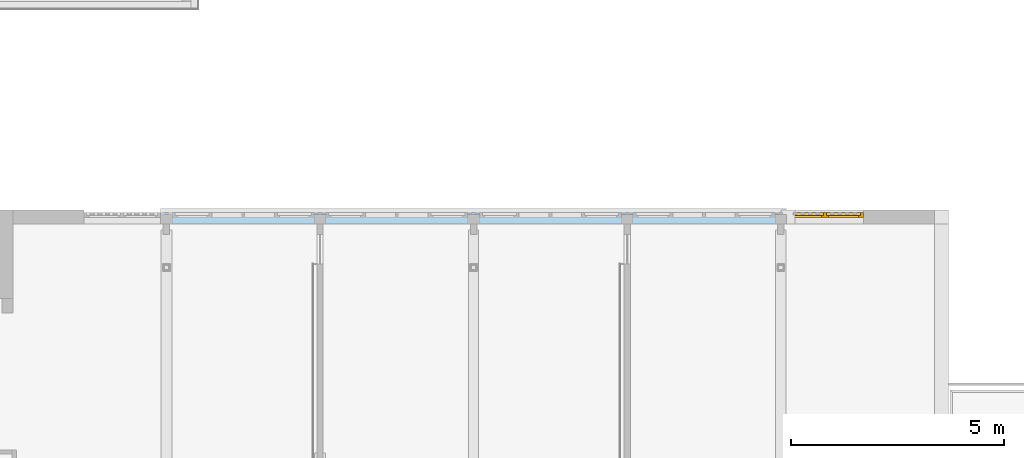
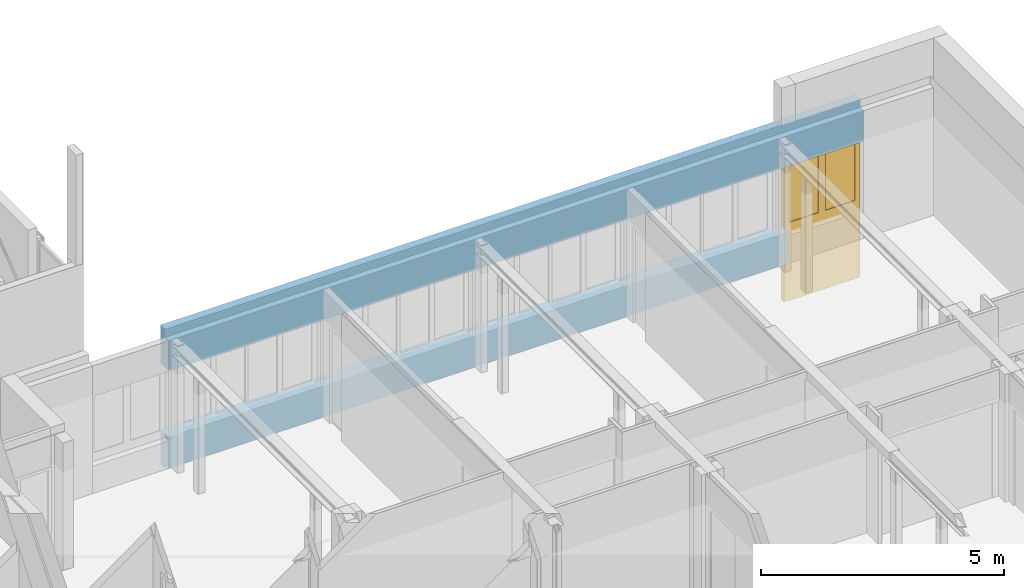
# One storey, part 44 of 117: 1 window, 6 openings, plus 1 element that does not belong to this part.
"""IFC2X3 building model written with IfcOpenShell, lengths in millimetres."""

import ifcopenshell
import ifcopenshell.guid

model = None  # the IFC model being written
_history = None  # IfcOwnerHistory: only IFC2X3 demands one
_inside = {}  # id of a spatial element -> (the spatial element, [elements in it])
_under = {}  # id of a project, library or spatial element -> (it, [spatial elements below it])
_declared = {}  # id of a project -> (the project, [libraries it declares])
_typed = {}  # id of a type object -> (the type object, [elements of that type])
_made_of = {}  # id of a material, layer set ... -> (it, [elements and type objects made of it])


def new_model(schema):
    """Start an empty IFC model of exactly this schema.

    Asked for "IFC4X3", IfcOpenShell would pick the latest addendum, in which some entities
    have other attributes; the version numbers below select the first issue.
    IFC2X3 requires an IfcOwnerHistory on every rooted entity: one is made here for all.
    """
    global model, _history
    if schema == "IFC4X3":
        model = ifcopenshell.file(schema_version=(4, 3, 0, 0))
    else:
        model = ifcopenshell.file(schema=schema)
    _inside.clear()
    _under.clear()
    _declared.clear()
    _typed.clear()
    _made_of.clear()
    _history = None
    if model.schema == "IFC2X3":
        org = make("IfcOrganization", Name="unknown")
        user = make(
            "IfcPersonAndOrganization",
            ThePerson=make("IfcPerson", FamilyName="unknown"),
            TheOrganization=org,
        )
        app = make(
            "IfcApplication",
            ApplicationDeveloper=org,
            Version="unknown",
            ApplicationFullName="unknown",
            ApplicationIdentifier="unknown",
        )
        _history = make(
            "IfcOwnerHistory",
            OwningUser=user,
            OwningApplication=app,
            ChangeAction="ADDED",
            CreationDate=0,
        )
    return model


def make(cls, **values):
    """One entity of the class cls with the attributes given. An attribute that is None is left unset."""
    return model.create_entity(
        cls, **{name: value for name, value in values.items() if value is not None}
    )


def entity(cls, *values):
    """Any entity or typed value of the class cls, its attributes in the order of the schema. None: left unset."""
    e = model.create_entity(cls)
    for i, value in enumerate(values):
        if value is not None:
            e[i] = value
    return e


def rooted(cls, **values):
    """An entity with a GlobalId (a new one), such as an element, a storey or a relation."""
    return make(cls, GlobalId=ifcopenshell.guid.new(), OwnerHistory=_history, **values)


def si_unit(unit_type, name, prefix=None):
    """IfcSIUnit, for example si_unit("LENGTHUNIT", "METRE", prefix="MILLI")."""
    return make("IfcSIUnit", UnitType=unit_type, Prefix=prefix, Name=name)


def converted_unit(unit_type, name, factor, base, dimensions=None, offset=None):
    """IfcConversionBasedUnit, such as the inch: factor (a typed value) times the base unit."""
    return make(
        "IfcConversionBasedUnit"
        if offset is None
        else "IfcConversionBasedUnitWithOffset",
        ConversionOffset=offset,
        Dimensions=None
        if dimensions is None
        else entity("IfcDimensionalExponents", *dimensions),
        UnitType=unit_type,
        Name=name,
        ConversionFactor=make(
            "IfcMeasureWithUnit", ValueComponent=factor, UnitComponent=base
        ),
    )


def derived_unit(unit_type, elements):
    """IfcDerivedUnit: a product of units, each with its exponent."""
    return make(
        "IfcDerivedUnit",
        Elements=[
            make("IfcDerivedUnitElement", Unit=unit, Exponent=power)
            for unit, power in elements
        ],
        UnitType=unit_type,
    )


def money_unit(currency):
    """IfcMonetaryUnit."""
    return make("IfcMonetaryUnit", Currency=currency)


def assignment(units):
    """IfcUnitAssignment: the units of a project."""
    return None if units is None else make("IfcUnitAssignment", Units=units)


def point(xyz):
    """IfcCartesianPoint."""
    return None if xyz is None else make("IfcCartesianPoint", Coordinates=xyz)


def direction(xyz):
    """IfcDirection."""
    return None if xyz is None else make("IfcDirection", DirectionRatios=xyz)


def frame(location, z_axis=None, x_axis=None):
    """IfcAxis2Placement3D, a coordinate frame: its origin and axes. An axis left out is left unset."""
    return make(
        "IfcAxis2Placement3D",
        Location=point(location),
        Axis=direction(z_axis),
        RefDirection=direction(x_axis),
    )


def origin_with_axes():
    """The frame at (0, 0, 0) with the z axis (0, 0, 1) and the x axis (1, 0, 0) written out."""
    return frame((0.0, 0.0, 0.0), z_axis=(0.0, 0.0, 1.0), x_axis=(1.0, 0.0, 0.0))


def place(relative_to, where):
    """IfcLocalPlacement: puts the frame where relative to a parent placement (None: the world)."""
    return make(
        "IfcLocalPlacement", PlacementRelTo=relative_to, RelativePlacement=where
    )


def context(
    kind, dimensions, precision=None, world=None, true_north=None, identifier=None
):
    """IfcGeometricRepresentationContext, for example the 3D "Model" context."""
    return make(
        "IfcGeometricRepresentationContext",
        ContextIdentifier=identifier,
        ContextType=kind,
        CoordinateSpaceDimension=dimensions,
        Precision=precision,
        WorldCoordinateSystem=world,
        TrueNorth=true_north,
    )


def subcontext(parent, identifier, kind, view, scale=None):
    """IfcGeometricRepresentationSubContext, for example "Body" below "Model"."""
    return make(
        "IfcGeometricRepresentationSubContext",
        ContextIdentifier=identifier,
        ContextType=kind,
        ParentContext=parent,
        TargetScale=scale,
        TargetView=view,
    )


def project(units=None, contexts=None):
    """IfcProject with its units and contexts."""
    return rooted(
        "IfcProject",
        Name="project",
        RepresentationContexts=contexts,
        UnitsInContext=assignment(units),
    )


def spatial(cls, under=None, at=None, **own):
    """A site, building, storey or space (cls), placed at a placement, below another one or the project."""
    s = rooted(cls, ObjectPlacement=at, **own)
    if under is not None:
        _under.setdefault(under.id(), (under, []))[1].append(s)
    return s


def faces_of(points, faces, orient=None, outer=None):
    """IfcFace entities. A face is a list of loops; a loop is a list of indices into points, from 0.

    orient and outer hold one flag for each loop. By default every Orientation is true, the
    first loop of a face is its IfcFaceOuterBound and the others are IfcFaceBound.
    """
    made = []
    for i, loops in enumerate(faces):
        bounds = []
        for j, loop in enumerate(loops):
            is_outer = j == 0 if outer is None else outer[i][j]
            bounds.append(
                make(
                    "IfcFaceOuterBound" if is_outer else "IfcFaceBound",
                    Bound=make("IfcPolyLoop", Polygon=[points[k] for k in loop]),
                    Orientation=True if orient is None else orient[i][j],
                )
            )
        made.append(make("IfcFace", Bounds=bounds))
    return made


def open_shell(faces, orient=None, outer=None):
    """The faces of one IfcOpenShell. surface_model builds it on its shared points."""
    return ("IfcOpenShell", faces, orient, outer)


def faceted_brep(points, faces, orient=None, outer=None, voids=None):
    """IfcFacetedBrep: a solid bounded by flat faces; with voids (closed shells), ...WithVoids."""
    shared = [point(p) for p in points]
    hull = make("IfcClosedShell", CfsFaces=faces_of(shared, faces, orient, outer))
    if voids is None:
        return make("IfcFacetedBrep", Outer=hull)
    return make(
        "IfcFacetedBrepWithVoids",
        Outer=hull,
        Voids=[
            make(cls, CfsFaces=faces_of(shared, fs, o, b)) for cls, fs, o, b in voids
        ],
    )


def surface_model(cls, points, shells):
    """IfcFaceBasedSurfaceModel or IfcShellBasedSurfaceModel (cls): surfaces that need not close."""
    shared = [point(p) for p in points]
    made = [make(c, CfsFaces=faces_of(shared, fs, o, b)) for c, fs, o, b in shells]
    if cls == "IfcFaceBasedSurfaceModel":
        return make(cls, FbsmFaces=made)
    return make(cls, SbsmBoundary=made)


def shape(context_of_items, identifier, shape_type, items):
    """IfcShapeRepresentation: the items that make up one representation, for example the "Body"."""
    return make(
        "IfcShapeRepresentation",
        ContextOfItems=context_of_items,
        RepresentationIdentifier=identifier,
        RepresentationType=shape_type,
        Items=items,
    )


def material(Name=None, Category=None):
    """IfcMaterial."""
    return make("IfcMaterial", Name=Name, Category=Category)


def made_of(thing, what):
    """Note that an element or type object is made of a material, layer set ...; save() writes the relation."""
    if what is not None:
        _made_of.setdefault(what.id(), (what, []))[1].append(thing)
    return thing


def type_object(cls, material=None, **own):
    """A type object (cls), such as IfcWallType, which elements share."""
    return made_of(rooted(cls, **own), material)


def element(
    cls,
    number,
    at=None,
    inside=None,
    cuts=None,
    type_object=None,
    material=None,
    context=None,
    identifier="Body",
    shape_type=None,
    held_by="IfcProductDefinitionShape",
    body=None,
    shapes=None,
    **own,
):
    """One element of the class cls, such as IfcWall. Its Tag is "e" and its number.

    at: its placement. inside: the storey or other place that contains it. cuts: it is an
    opening in that element (IfcRelVoidsElement). A single representation is given by context,
    identifier, shape_type and body (its items); several are given by shapes. held_by: the class
    of the entity that holds the representations. save() writes the other relations.
    """
    e = rooted(cls, Tag="e%d" % number, ObjectPlacement=at, **own)
    if body is not None:
        shapes = [shape(context, identifier, shape_type, body)]
    if shapes is not None:
        e.Representation = make(held_by, Representations=shapes)
    if inside is not None:
        _inside.setdefault(inside.id(), (inside, []))[1].append(e)
    if cuts is not None:
        rooted(
            "IfcRelVoidsElement", RelatingBuildingElement=cuts, RelatedOpeningElement=e
        )
    if type_object is not None:
        _typed.setdefault(type_object.id(), (type_object, []))[1].append(e)
    return made_of(e, material)


def fill(opening, filler):
    """IfcRelFillsElement: the door or window that sits in an opening."""
    return rooted(
        "IfcRelFillsElement",
        RelatingOpeningElement=opening,
        RelatedBuildingElement=filler,
    )


def aggregate(whole, parts):
    """IfcRelAggregates: a whole, such as a stair, and the parts it consists of."""
    return rooted("IfcRelAggregates", RelatingObject=whole, RelatedObjects=parts)


def save(model, path):
    """Write the relations noted so far, then the file.

    IfcRelAggregates (storeys below a building ...), IfcRelContainedInSpatialStructure (elements
    in a storey), IfcRelDefinesByType, IfcRelAssociatesMaterial and IfcRelDeclares: one each for
    every whole, place, type object, material and project.
    """
    for whole, parts in _under.values():
        aggregate(whole, parts)
    for where, things in _inside.values():
        rooted(
            "IfcRelContainedInSpatialStructure",
            RelatedElements=things,
            RelatingStructure=where,
        )
    for kind, things in _typed.values():
        rooted("IfcRelDefinesByType", RelatedObjects=things, RelatingType=kind)
    for what, things in _made_of.values():
        rooted("IfcRelAssociatesMaterial", RelatedObjects=things, RelatingMaterial=what)
    for by, libraries in _declared.values():
        rooted("IfcRelDeclares", RelatingContext=by, RelatedDefinitions=libraries)
    model.write(path)


model = new_model("IFC2X3")

# Units and contexts
model_context = context("Model", 3, precision=0.01, world=origin_with_axes(), true_north=direction((0.0, 1.0)))
body_context = subcontext(model_context, "Body", "Model", "MODEL_VIEW")
ifc_project = project(units=[si_unit("LENGTHUNIT", "METRE", prefix="MILLI"), si_unit("AREAUNIT", "SQUARE_METRE"), si_unit("VOLUMEUNIT", "CUBIC_METRE"), converted_unit("PLANEANGLEUNIT", "DEGREE", entity("IfcPlaneAngleMeasure", 0.0174532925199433), si_unit("PLANEANGLEUNIT", "RADIAN"), dimensions=[0, 0, 0, 0, 0, 0, 0]), money_unit("EUR"), converted_unit("TIMEUNIT", "Year", entity("IfcTimeMeasure", 31557600.0), si_unit("TIMEUNIT", "SECOND"), dimensions=[0, 0, 1, 0, 0, 0, 0]), si_unit("MASSUNIT", "GRAM", prefix="KILO"), si_unit("THERMODYNAMICTEMPERATUREUNIT", "DEGREE_CELSIUS"), si_unit("LUMINOUSINTENSITYUNIT", "LUMEN"), si_unit("ENERGYUNIT", "JOULE", prefix="MEGA"), derived_unit("THERMALCONDUCTANCEUNIT", [(si_unit("POWERUNIT", "WATT"), 1), (si_unit("LENGTHUNIT", "METRE"), -1), (si_unit("THERMODYNAMICTEMPERATUREUNIT", "KELVIN"), -1)]), derived_unit("SPECIFICHEATCAPACITYUNIT", [(si_unit("ENERGYUNIT", "JOULE"), 1), (si_unit("MASSUNIT", "GRAM", prefix="KILO"), -1), (si_unit("THERMODYNAMICTEMPERATUREUNIT", "KELVIN"), -1)]), derived_unit("MASSDENSITYUNIT", [(si_unit("MASSUNIT", "GRAM", prefix="KILO"), 1), (si_unit("VOLUMEUNIT", "CUBIC_METRE"), -1)])], contexts=[model_context])

# Site, building, storey
site_placement = place(None, origin_with_axes())
site = spatial("IfcSite", under=ifc_project, at=site_placement, Name="Site", CompositionType="ELEMENT")
building_placement = place(site_placement, origin_with_axes())
building = spatial("IfcBuilding", under=site, at=building_placement, Name="Naam gebouw", CompositionType="ELEMENT")
storey_placement = place(building_placement, frame((0.0, 0.0, 4150.0), z_axis=(0.0, 0.0, 1.0), x_axis=(1.0, 0.0, 0.0)))
storey = spatial("IfcBuildingStorey", under=building, at=storey_placement, Name="1e verdieping N", CompositionType="ELEMENT", Elevation=4150.0)

# Wall, openings, window
ifc_material = material(Name="ALG - CONSTRUCTIEF")
wall_type = type_object("IfcWallType", Name="ALG - CONSTRUCTIEF 330", PredefinedType="NOTDEFINED")
wall_placement = place(storey_placement, frame((52337.49999999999, 27505.91242510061, -99.99999999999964), z_axis=(0.0, 0.0, 1.0), x_axis=(-1.0, 0.0, 0.0)))
wall = element("IfcWall", 1, at=wall_placement, inside=storey, type_object=wall_type, material=ifc_material, Name="_Wand-x", context=body_context, shape_type="Brep", body=[
    faceted_brep([(1799.999999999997, -216.0000000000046, 883.0000000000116), (1799.999999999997, -259.999999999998, 883.0000000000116), (2075.00000000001, -259.999999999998, 883.0000000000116), (2075.00000000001, -216.0000000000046, 883.0000000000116), (1799.999999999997, 0.0, 883.0000000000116), (1799.999999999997, 0.0, 786.5000000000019), (1799.999999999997, -146.0000000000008, 786.5000000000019), (1799.999999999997, -145.9999999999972, 99.99999999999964), (1799.999999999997, -145.9999999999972, 0.0), (1799.999999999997, -259.999999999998, 0.0), (1799.999999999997, -329.9999999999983, 0.0), (1799.999999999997, -329.9999999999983, 883.0000000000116), (16475.0, -329.9999999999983, 883.0000000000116), (16475.0, -259.999999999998, 883.0000000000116), (16200.0, -259.999999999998, 883.0000000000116), (16200.0, -216.0000000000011, 883.0000000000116), (16474.99999999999, -216.0000000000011, 883.0000000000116), (16474.99999999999, 0.0, 883.0000000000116), (5675.000000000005, -259.999999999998, 883.0000000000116), (5399.999999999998, -259.999999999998, 883.0000000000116), (5399.999999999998, -216.0000000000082, 883.0000000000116), (5675.000000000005, -216.0000000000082, 882.9999999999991), (9275.000000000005, -259.9999999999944, 883.0000000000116), (9000.0, -259.9999999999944, 883.0000000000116), (9000.0, -216.0000000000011, 882.9999999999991), (9275.000000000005, -216.0000000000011, 882.9999999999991), (12875.00000000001, -259.999999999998, 883.0000000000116), (12599.99999999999, -259.999999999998, 883.0000000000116), (12599.99999999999, -216.0000000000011, 883.0000000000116), (12875.00000000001, -216.0000000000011, 883.0000000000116), (16475.0, 0.0, 786.5000000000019), (16475.0, 0.0, 99.99999999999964), (1799.999999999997, 0.0, 99.99999999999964), (16475.0, -145.9999999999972, 99.99999999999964), (16475.0, -145.9999999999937, 0.0), (16475.0, -329.9999999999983, 0.0), (16475.0, -145.9999999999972, 786.5000000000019)], [[[0, 1, 2, 3]], [[1, 0, 4, 5, 6, 7, 8, 9, 10, 11]], [[4, 0, 3, 2, 1, 11, 12, 13, 14, 15, 16, 17], [18, 19, 20, 21], [22, 23, 24, 25], [26, 27, 28, 29]], [[5, 4, 17, 30, 31, 32]], [[6, 5, 32, 7]], [[8, 7, 33, 34]], [[9, 8, 34, 35, 10]], [[10, 35, 12, 11]], [[16, 13, 12, 35, 34, 33, 36, 30, 17]], [[14, 13, 16, 15]], [[19, 18, 21, 20]], [[23, 22, 25, 24]], [[27, 26, 29, 28]], [[36, 33, 31, 30]], [[7, 32, 31, 33]]]),
    faceted_brep([(0.0, 0.0, 2539.999999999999), (0.0, -259.999999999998, 2539.999999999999), (0.0, -329.9999999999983, 2539.999999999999), (0.0, -329.9999999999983, 3500.0), (0.0, -145.5905537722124, 3500.0), (0.0, -145.5905537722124, 3300.0), (0.0, 0.0, 3300.0), (1799.999999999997, 0.0, 2539.999999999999), (16474.99999999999, 0.0, 2539.999999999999), (16475.0, -145.9999999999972, 2539.999999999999), (16474.99999999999, -216.0000000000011, 2539.999999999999), (16200.0, -216.0000000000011, 2539.999999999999), (16200.0, -259.999999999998, 2539.999999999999), (16475.0, -259.999999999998, 2539.999999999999), (16475.0, -329.9999999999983, 2539.999999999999), (5399.999999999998, -216.0000000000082, 2539.999999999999), (5399.999999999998, -259.999999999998, 2539.999999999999), (5675.000000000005, -259.999999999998, 2539.999999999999), (5675.000000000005, -216.0000000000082, 2539.999999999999), (9000.0, -259.9999999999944, 2539.999999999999), (9275.000000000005, -259.9999999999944, 2539.999999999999), (9275.000000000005, -216.0000000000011, 2539.999999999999), (9000.0, -216.0000000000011, 2539.999999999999), (12599.99999999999, -259.999999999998, 2539.999999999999), (12875.00000000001, -259.999999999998, 2539.999999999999), (12875.00000000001, -216.0000000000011, 2539.999999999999), (12599.99999999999, -216.0000000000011, 2539.999999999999), (1799.999999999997, -216.0000000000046, 2539.999999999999), (1799.999999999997, -259.999999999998, 2539.999999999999), (2075.00000000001, -259.999999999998, 2539.999999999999), (2075.00000000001, -216.0000000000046, 2539.999999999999), (16475.0, -329.9999999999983, 3500.0), (16475.0, -146.0000000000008, 3500.0), (16475.0, -146.0000000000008, 3300.0), (16475.0, 0.0, 3300.0)], [[[0, 1, 2, 3, 4, 5, 6]], [[7, 8, 9, 10, 11, 12, 13, 14, 2, 1, 0], [15, 16, 17, 18], [19, 20, 21, 22], [23, 24, 25, 26], [27, 28, 29, 30]], [[14, 31, 3, 2]], [[4, 3, 31, 32]], [[5, 4, 32, 33]], [[6, 5, 33, 34]], [[7, 0, 6, 34, 8]], [[33, 9, 8, 34]], [[33, 32, 31, 14, 13, 10, 9]], [[13, 12, 11, 10]], [[16, 15, 18, 17]], [[20, 19, 22, 21]], [[24, 23, 26, 25]], [[28, 27, 30, 29]]]),
])
opening_1_placement = place(wall_placement, frame((3737.499999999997, 0.0, 883.0000000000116), z_axis=(0.0, 0.0, 1.0), x_axis=(1.0, 0.0, 0.0)))
element("IfcOpeningElement", 2, at=opening_1_placement, cuts=wall, Name="_Merk-038", context=body_context, shape_type="Brep", body=[
    faceted_brep([(1662.500000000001, -259.999999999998, 0.0), (1662.500000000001, -259.999999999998, 1656.999999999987), (1662.500000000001, -331.0000000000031, 1656.999999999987), (1662.500000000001, -331.0000000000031, 0.0), (1662.500000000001, 1.000000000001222, 0.0), (1662.500000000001, 1.000000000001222, 1656.999999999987), (-1937.5, -259.999999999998, 1656.999999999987), (-1937.5, -331.0000000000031, 1656.999999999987), (-1937.5, 1.000000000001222, 1656.999999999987), (-1937.5, -331.0000000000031, 0.0), (-1937.5, -259.999999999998, 0.0), (-1937.5, 1.000000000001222, 0.0)], [[[0, 1, 2, 3]], [[1, 0, 4, 5]], [[6, 7, 2, 1, 5, 8]], [[7, 9, 3, 2]], [[0, 3, 9, 10, 11, 4]], [[5, 4, 11, 8]], [[6, 10, 9, 7]], [[10, 6, 8, 11]]]),
])
opening_2_placement = place(wall_placement, frame((10937.5, 0.0, 883.0000000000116), z_axis=(0.0, 0.0, 1.0), x_axis=(1.0, 0.0, 0.0)))
element("IfcOpeningElement", 3, at=opening_2_placement, cuts=wall, Name="_Merk-038", context=body_context, shape_type="Brep", body=[
    faceted_brep([(1662.500000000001, -259.9999999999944, 0.0), (1662.500000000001, -259.9999999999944, 1656.999999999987), (1662.500000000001, -330.9999999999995, 1656.999999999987), (1662.500000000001, -330.9999999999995, 0.0), (1662.500000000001, 1.000000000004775, 0.0), (1662.500000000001, 1.000000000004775, 1656.999999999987), (-1937.5, -259.9999999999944, 1656.999999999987), (-1937.5, -330.9999999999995, 1656.999999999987), (-1937.5, 1.000000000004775, 1656.999999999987), (-1937.5, -330.9999999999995, 0.0), (-1937.5, -259.9999999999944, 0.0), (-1937.5, 1.000000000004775, 0.0)], [[[0, 1, 2, 3]], [[1, 0, 4, 5]], [[6, 7, 2, 1, 5, 8]], [[7, 9, 3, 2]], [[0, 3, 9, 10, 11, 4]], [[5, 4, 11, 8]], [[6, 10, 9, 7]], [[10, 6, 8, 11]]]),
])
opening_3_placement = place(wall_placement, frame((14537.49999999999, 0.0, 883.0000000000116), z_axis=(0.0, 0.0, 1.0), x_axis=(1.0, 0.0, 0.0)))
element("IfcOpeningElement", 4, at=opening_3_placement, cuts=wall, Name="_Merk-038", context=body_context, shape_type="Brep", body=[
    faceted_brep([(1937.5, -259.999999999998, 0.0), (1937.5, -259.999999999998, 1656.999999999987), (1937.5, -330.9999999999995, 1656.999999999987), (1937.5, -330.9999999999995, 0.0), (1937.5, 1.000000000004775, 0.0), (1937.5, 1.000000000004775, 1656.999999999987), (-1937.5, -259.999999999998, 1656.999999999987), (-1937.5, -330.9999999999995, 1656.999999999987), (-1937.5, 1.000000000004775, 1656.999999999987), (-1937.5, -330.9999999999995, 0.0), (-1937.5, -259.999999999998, 0.0), (-1937.5, 1.000000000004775, 0.0)], [[[0, 1, 2, 3]], [[1, 0, 4, 5]], [[6, 7, 2, 1, 5, 8]], [[7, 9, 3, 2]], [[0, 3, 9, 10, 11, 4]], [[5, 4, 11, 8]], [[6, 10, 9, 7]], [[10, 6, 8, 11]]]),
])
opening_4_placement = place(wall_placement, frame((7337.499999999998, 0.0, 883.0000000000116), z_axis=(0.0, 0.0, 1.0), x_axis=(1.0, 0.0, 0.0)))
element("IfcOpeningElement", 5, at=opening_4_placement, cuts=wall, Name="_Merk-038", context=body_context, shape_type="Brep", body=[
    faceted_brep([(1662.500000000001, -259.999999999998, 0.0), (1662.500000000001, -259.999999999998, 1656.999999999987), (1662.500000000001, -331.0000000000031, 1656.999999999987), (1662.500000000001, -331.0000000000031, 0.0), (1662.500000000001, 1.000000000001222, 0.0), (1662.500000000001, 1.000000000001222, 1656.999999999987), (-1937.5, -260.0000000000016, 1656.999999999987), (-1937.5, -331.0000000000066, 1656.999999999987), (-1937.5, 0.9999999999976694, 1656.999999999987), (-1937.5, -331.0000000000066, 0.0), (-1937.5, -260.0000000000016, 0.0), (-1937.5, 0.9999999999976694, 0.0)], [[[0, 1, 2, 3]], [[1, 0, 4, 5]], [[6, 7, 2, 1, 5, 8]], [[7, 9, 3, 2]], [[0, 3, 9, 10, 11, 4]], [[5, 4, 11, 8]], [[6, 10, 9, 7]], [[10, 6, 8, 11]]]),
])
opening_5_placement = place(wall_placement, frame((17375.0, 0.0, -960.0000000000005), z_axis=(0.0, 0.0, 1.0), x_axis=(1.0, 0.0, 0.0)))
element("IfcOpeningElement", 6, at=opening_5_placement, cuts=wall, Name="_Merk-037", context=body_context, shape_type="Brep", body=[
    faceted_brep([(899.9999999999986, -259.999999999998, 0.0), (899.9999999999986, -259.999999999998, 4500.0), (899.9999999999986, -330.9999999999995, 4500.0), (899.9999999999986, -330.9999999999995, 0.0), (899.9999999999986, 1.000000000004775, 0.0), (899.9999999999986, 1.000000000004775, 4500.0), (-899.9999999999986, -259.999999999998, 4500.0), (-899.9999999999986, -330.9999999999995, 4500.0), (-899.9999999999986, 1.000000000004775, 4500.0), (-899.9999999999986, -330.9999999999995, 0.0), (-899.9999999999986, -259.999999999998, 0.0), (-899.9999999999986, 1.000000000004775, 0.0)], [[[0, 1, 2, 3]], [[1, 0, 4, 5]], [[6, 7, 2, 1, 5, 8]], [[7, 9, 3, 2]], [[0, 3, 9, 10, 11, 4]], [[5, 4, 11, 8]], [[6, 10, 9, 7]], [[10, 6, 8, 11]]]),
])
opening_6_placement = place(wall_placement, frame((899.9999999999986, 0.0, -960.0000000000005), z_axis=(0.0, 0.0, 1.0), x_axis=(1.0, 0.0, 0.0)))
opening_6 = element("IfcOpeningElement", 7, at=opening_6_placement, cuts=wall, Name="_Merk-037", context=body_context, shape_type="Brep", body=[
    faceted_brep([(899.9999999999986, -259.999999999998, 0.0), (899.9999999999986, -259.999999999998, 3500.0), (899.9999999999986, -331.0000000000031, 3500.0), (899.9999999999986, -331.0000000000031, 0.0), (899.9999999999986, 1.000000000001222, 0.0), (899.9999999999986, 1.000000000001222, 3500.0), (-899.9999999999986, -259.999999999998, 3500.0), (-899.9999999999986, -331.0000000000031, 3500.0), (-899.9999999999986, 1.000000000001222, 3500.0), (-899.9999999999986, -331.0000000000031, 0.0), (-899.9999999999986, -259.999999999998, 0.0), (-899.9999999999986, 1.000000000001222, 0.0)], [[[0, 1, 2, 3]], [[1, 0, 4, 5]], [[6, 7, 2, 1, 5, 8]], [[7, 9, 3, 2]], [[0, 3, 9, 10, 11, 4]], [[5, 4, 11, 8]], [[6, 10, 9, 7]], [[10, 6, 8, 11]]]),
])
window_style = type_object("IfcWindowStyle", Name="R2 bl ol 26", ConstructionType="NOTDEFINED", OperationType="USERDEFINED", ParameterTakesPrecedence=False, Sizeable=False)
window_placement = place(opening_6_placement, frame((-899.9999999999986, 0.0, 0.0), z_axis=(0.0, 0.0, 1.0), x_axis=(1.0, 0.0, 0.0)))
window = element("IfcWindow", 8, at=window_placement, inside=storey, type_object=window_style, Name="_Merk-037", ObjectType="WINDOW", OverallHeight=3500.0, OverallWidth=1800.0, context=body_context, shape_type="SurfaceModel", body=[
    faceted_brep([(49.99999999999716, -145.9999999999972, 3433.0), (0.0, -145.9999999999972, 3433.0), (0.0, -259.999999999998, 3433.0), (67.00000000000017, -259.999999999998, 3433.0), (67.00000000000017, -199.9999999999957, 3433.0), (49.99999999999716, -199.9999999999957, 3433.0), (49.99999999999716, -145.9999999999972, 1893.000000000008), (67.00000000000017, -145.9999999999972, 1893.000000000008), (67.00000000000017, -145.9999999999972, 1843.000000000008), (67.00000000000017, -145.9999999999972, 66.99999999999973), (0.0, -145.9999999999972, 66.99999999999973), (0.0, -259.999999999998, 66.99999999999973), (67.00000000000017, -259.999999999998, 1910.000000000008), (67.00000000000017, -259.999999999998, 66.99999999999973), (67.00000000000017, -259.999999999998, 1843.000000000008), (67.00000000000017, -199.9999999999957, 1910.000000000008), (67.00000000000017, -199.9999999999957, 1893.000000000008), (49.99999999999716, -199.9999999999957, 1893.000000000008)], [[[0, 1, 2, 3, 4, 5]], [[6, 7, 8, 9, 10, 1, 0]], [[1, 10, 11, 2]], [[12, 3, 2, 11, 13, 14]], [[4, 3, 12, 15]], [[15, 16, 17, 5, 4]], [[5, 17, 6, 0]], [[6, 17, 16, 7]], [[16, 15, 12, 14, 8, 7]], [[9, 8, 14, 13]], [[10, 9, 13, 11]]]),
    faceted_brep([(1732.999999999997, -199.9999999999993, 3433.0), (1732.999999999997, -259.999999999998, 3433.0), (1799.999999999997, -259.999999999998, 3433.0), (1799.999999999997, -145.9999999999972, 3433.0), (1750.0, -145.9999999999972, 3433.0), (1750.0, -199.9999999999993, 3433.0), (1732.999999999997, -199.9999999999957, 1910.000000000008), (1732.999999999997, -259.999999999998, 1910.000000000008), (1799.999999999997, -259.999999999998, 66.99999999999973), (1732.999999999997, -259.999999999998, 1843.000000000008), (1732.999999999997, -259.999999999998, 66.99999999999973), (1799.999999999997, -145.9999999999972, 66.99999999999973), (1750.0, -145.9999999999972, 1893.000000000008), (1732.999999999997, -145.9999999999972, 66.99999999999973), (1732.999999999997, -145.9999999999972, 1843.000000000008), (1732.999999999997, -145.9999999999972, 1893.000000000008), (1750.0, -199.9999999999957, 1893.000000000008), (1732.999999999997, -199.9999999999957, 1893.000000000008)], [[[0, 1, 2, 3, 4, 5]], [[6, 7, 1, 0]], [[8, 2, 1, 7, 9, 10]], [[11, 3, 2, 8]], [[12, 4, 3, 11, 13, 14, 15]], [[12, 16, 5, 4]], [[5, 16, 17, 6, 0]], [[17, 15, 14, 9, 7, 6]], [[14, 13, 10, 9]], [[13, 11, 8, 10]], [[15, 17, 16, 12]]]),
    faceted_brep([(866.499999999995, -199.9999999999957, 3433.0), (866.499999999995, -259.999999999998, 3433.0), (933.4999999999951, -259.999999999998, 3433.0), (933.4999999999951, -199.9999999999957, 3433.0), (916.4999999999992, -199.9999999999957, 3433.0), (916.4999999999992, -145.9999999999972, 3433.0), (883.499999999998, -145.9999999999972, 3433.0), (883.499999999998, -199.9999999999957, 3433.0), (866.499999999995, -199.9999999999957, 1910.000000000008), (866.499999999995, -259.999999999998, 1910.000000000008), (866.499999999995, -259.999999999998, 1843.000000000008), (866.499999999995, -259.999999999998, 66.99999999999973), (933.4999999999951, -259.999999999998, 66.99999999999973), (933.4999999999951, -259.999999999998, 1843.000000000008), (933.4999999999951, -259.999999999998, 1910.000000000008), (933.4999999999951, -199.9999999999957, 1910.000000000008), (933.4999999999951, -199.9999999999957, 1893.000000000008), (916.4999999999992, -199.9999999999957, 1893.000000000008), (916.4999999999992, -145.9999999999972, 1893.000000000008), (883.499999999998, -145.9999999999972, 1893.000000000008), (933.4999999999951, -145.9999999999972, 1893.000000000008), (933.4999999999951, -145.9999999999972, 1843.000000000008), (933.4999999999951, -145.9999999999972, 66.99999999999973), (866.499999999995, -145.9999999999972, 66.99999999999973), (866.499999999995, -145.9999999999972, 1843.000000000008), (866.499999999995, -145.9999999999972, 1893.000000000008), (883.499999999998, -199.9999999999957, 1893.000000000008), (866.499999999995, -199.9999999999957, 1893.000000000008)], [[[0, 1, 2, 3, 4, 5, 6, 7]], [[8, 9, 1, 0]], [[10, 11, 12, 13, 14, 2, 1, 9]], [[3, 2, 14, 15]], [[15, 16, 17, 4, 3]], [[4, 17, 18, 5]], [[19, 6, 5, 18, 20, 21, 22, 23, 24, 25]], [[19, 26, 7, 6]], [[7, 26, 27, 8, 0]], [[27, 25, 24, 10, 9, 8]], [[24, 23, 11, 10]], [[23, 22, 12, 11]], [[22, 21, 13, 12]], [[16, 15, 14, 13, 21, 20]], [[18, 17, 16, 20]], [[25, 27, 26, 19]]]),
    faceted_brep([(933.4999999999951, -199.9999999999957, 1910.000000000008), (933.4999999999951, -259.999999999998, 1910.000000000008), (1732.999999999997, -259.999999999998, 1910.000000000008), (1732.999999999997, -199.9999999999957, 1910.000000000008), (933.4999999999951, -199.9999999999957, 1893.000000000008), (933.4999999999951, -145.9999999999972, 1893.000000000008), (933.4999999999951, -145.9999999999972, 1843.000000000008), (933.4999999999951, -259.999999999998, 1843.000000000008), (1732.999999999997, -259.999999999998, 1843.000000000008), (1732.999999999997, -199.9999999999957, 1893.000000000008), (1732.999999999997, -145.9999999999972, 1843.000000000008), (1732.999999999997, -145.9999999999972, 1893.000000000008)], [[[0, 1, 2, 3]], [[4, 5, 6, 7, 1, 0]], [[7, 8, 2, 1]], [[9, 3, 2, 8, 10, 11]], [[9, 4, 0, 3]], [[5, 4, 9, 11]], [[11, 10, 6, 5]], [[6, 10, 8, 7]]]),
    faceted_brep([(67.00000000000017, -199.9999999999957, 1910.000000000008), (67.00000000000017, -259.999999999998, 1910.000000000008), (866.499999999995, -259.999999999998, 1910.000000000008), (866.499999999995, -199.9999999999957, 1910.000000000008), (67.00000000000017, -199.9999999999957, 1893.000000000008), (67.00000000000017, -145.9999999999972, 1893.000000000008), (67.00000000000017, -145.9999999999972, 1843.000000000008), (67.00000000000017, -259.999999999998, 1843.000000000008), (866.499999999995, -259.999999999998, 1843.000000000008), (866.499999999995, -199.9999999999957, 1893.000000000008), (866.499999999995, -145.9999999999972, 1843.000000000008), (866.499999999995, -145.9999999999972, 1893.000000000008)], [[[0, 1, 2, 3]], [[4, 5, 6, 7, 1, 0]], [[2, 1, 7, 8]], [[9, 3, 2, 8, 10, 11]], [[9, 4, 0, 3]], [[5, 4, 9, 11]], [[11, 10, 6, 5]], [[6, 10, 8, 7]]]),
    faceted_brep([(49.99999999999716, -145.9999999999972, 3433.0), (0.0, -145.9999999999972, 3433.0), (0.0, -145.9999999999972, 3500.0), (1799.999999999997, -145.9999999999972, 3500.0), (1799.999999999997, -145.9999999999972, 3433.0), (1750.0, -145.9999999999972, 3433.0), (1750.0, -145.9999999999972, 3450.0), (916.4999999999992, -145.9999999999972, 3450.0), (916.4999999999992, -145.9999999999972, 3433.0), (883.499999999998, -145.9999999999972, 3433.0), (883.499999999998, -145.9999999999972, 3450.0), (49.99999999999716, -145.9999999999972, 3450.0), (49.99999999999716, -199.9999999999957, 3433.0), (67.00000000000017, -199.9999999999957, 3433.0), (67.00000000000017, -259.999999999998, 3433.0), (0.0, -259.999999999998, 3433.0), (0.0, -259.999999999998, 3500.0), (1799.999999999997, -259.999999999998, 3500.0), (1799.999999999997, -259.999999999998, 3433.0), (1750.0, -199.9999999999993, 3433.0), (1732.999999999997, -259.999999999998, 3433.0), (1732.999999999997, -199.9999999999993, 3433.0), (1750.0, -199.9999999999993, 3450.0), (916.4999999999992, -199.9999999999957, 3450.0), (916.4999999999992, -199.9999999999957, 3433.0), (883.499999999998, -199.9999999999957, 3433.0), (933.4999999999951, -199.9999999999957, 3433.0), (933.4999999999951, -259.999999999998, 3433.0), (866.499999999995, -259.999999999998, 3433.0), (866.499999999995, -199.9999999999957, 3433.0), (883.499999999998, -199.9999999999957, 3450.0), (49.99999999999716, -199.9999999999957, 3450.0)], [[[0, 1, 2, 3, 4, 5, 6, 7, 8, 9, 10, 11]], [[12, 13, 14, 15, 1, 0]], [[2, 1, 15, 16]], [[3, 2, 16, 17]], [[4, 3, 17, 18]], [[19, 5, 4, 18, 20, 21]], [[5, 19, 22, 6]], [[6, 22, 23, 7]], [[7, 23, 24, 8]], [[25, 9, 8, 24, 26, 27, 28, 29]], [[9, 25, 30, 10]], [[10, 30, 31, 11]], [[11, 31, 12, 0]], [[29, 13, 12, 31, 30, 25]], [[29, 28, 14, 13]], [[27, 20, 18, 17, 16, 15, 14, 28]], [[21, 20, 27, 26]], [[21, 26, 24, 23, 22, 19]]]),
    faceted_brep([(67.00000000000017, -259.999999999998, 67.00000000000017), (67.00000000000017, -145.9999999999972, 67.00000000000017), (0.0, -145.9999999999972, 67.00000000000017), (0.0, -259.999999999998, 67.00000000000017), (866.499999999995, -259.999999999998, 67.00000000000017), (866.499999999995, -145.9999999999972, 67.00000000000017), (933.4999999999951, -145.9999999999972, 67.00000000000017), (1732.999999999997, -145.9999999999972, 67.00000000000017), (1799.999999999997, -145.9999999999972, 67.00000000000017), (1799.999999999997, -145.9999999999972, 0.0), (0.0, -145.9999999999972, 0.0), (0.0, -259.999999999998, 0.0), (1799.999999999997, -259.999999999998, 0.0), (1799.999999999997, -259.999999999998, 67.00000000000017), (1732.999999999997, -259.999999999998, 67.00000000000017), (933.4999999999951, -259.999999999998, 67.00000000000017)], [[[0, 1, 2, 3]], [[4, 5, 1, 0]], [[1, 5, 6, 7, 8, 9, 10, 2]], [[3, 2, 10, 11]], [[0, 3, 11, 12, 13, 14, 15, 4]], [[15, 6, 5, 4]], [[14, 7, 6, 15]], [[13, 8, 7, 14]], [[12, 9, 8, 13]], [[11, 10, 9, 12]]]),
    faceted_brep([(116.9999999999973, -199.9999999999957, 3383.0), (116.9999999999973, -145.9999999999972, 3383.0), (49.99999999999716, -145.9999999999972, 3383.0), (49.99999999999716, -199.9999999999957, 3383.0), (116.9999999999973, -199.9999999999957, 1960.000000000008), (116.9999999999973, -145.9999999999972, 1960.000000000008), (49.99999999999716, -145.9999999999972, 1960.000000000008), (49.99999999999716, -199.9999999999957, 1960.000000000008)], [[[0, 1, 2, 3]], [[4, 5, 1, 0]], [[1, 5, 6, 2]], [[3, 2, 6, 7]], [[0, 3, 7, 4]], [[7, 6, 5, 4]]]),
    faceted_brep([(816.4999999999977, -199.9999999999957, 1960.000000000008), (816.4999999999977, -145.9999999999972, 1960.000000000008), (883.499999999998, -145.9999999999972, 1960.000000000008), (883.499999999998, -199.9999999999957, 1960.000000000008), (816.4999999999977, -199.9999999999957, 3383.0), (816.4999999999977, -145.9999999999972, 3383.0), (883.499999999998, -145.9999999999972, 3383.0), (883.499999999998, -199.9999999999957, 3383.0)], [[[0, 1, 2, 3]], [[4, 5, 1, 0]], [[1, 5, 6, 2]], [[3, 2, 6, 7]], [[0, 3, 7, 4]], [[7, 6, 5, 4]]]),
    faceted_brep([(883.499999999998, -199.9999999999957, 1893.000000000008), (883.499999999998, -145.9999999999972, 1893.000000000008), (883.499999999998, -145.9999999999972, 1960.000000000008), (883.499999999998, -199.9999999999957, 1960.000000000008), (49.99999999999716, -199.9999999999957, 1893.000000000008), (49.99999999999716, -145.9999999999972, 1893.000000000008), (49.99999999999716, -145.9999999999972, 1960.000000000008), (116.9999999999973, -145.9999999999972, 1960.000000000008), (816.4999999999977, -145.9999999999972, 1960.000000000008), (816.4999999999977, -199.9999999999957, 1960.000000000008), (116.9999999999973, -199.9999999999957, 1960.000000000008), (49.99999999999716, -199.9999999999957, 1960.000000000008)], [[[0, 1, 2, 3]], [[4, 5, 1, 0]], [[1, 5, 6, 7, 8, 2]], [[3, 2, 8, 9]], [[0, 3, 9, 10, 11, 4]], [[11, 6, 5, 4]], [[10, 7, 6, 11]], [[9, 8, 7, 10]]]),
    faceted_brep([(49.99999999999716, -199.9999999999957, 3450.0), (49.99999999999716, -145.9999999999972, 3450.0), (49.99999999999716, -145.9999999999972, 3383.0), (49.99999999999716, -199.9999999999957, 3383.0), (883.499999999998, -199.9999999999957, 3450.0), (883.499999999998, -145.9999999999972, 3450.0), (883.499999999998, -145.9999999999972, 3383.0), (816.4999999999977, -145.9999999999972, 3383.0), (116.9999999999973, -145.9999999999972, 3383.0), (116.9999999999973, -199.9999999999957, 3383.0), (816.4999999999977, -199.9999999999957, 3383.0), (883.499999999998, -199.9999999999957, 3383.0)], [[[0, 1, 2, 3]], [[4, 5, 1, 0]], [[1, 5, 6, 7, 8, 2]], [[3, 2, 8, 9]], [[0, 3, 9, 10, 11, 4]], [[11, 6, 5, 4]], [[10, 7, 6, 11]], [[9, 8, 7, 10]]]),
    surface_model("IfcShellBasedSurfaceModel", [(116.9999999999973, -182.9999999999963, 1960.000000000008), (816.4999999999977, -182.9999999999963, 1960.000000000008), (816.4999999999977, -182.9999999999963, 3383.0), (116.9999999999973, -182.9999999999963, 3383.0)], [open_shell([[[0, 1, 2, 3]]])]),
    surface_model("IfcShellBasedSurfaceModel", [(116.9999999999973, -162.9999999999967, 1960.000000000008), (116.9999999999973, -162.9999999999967, 3383.0), (816.4999999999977, -162.9999999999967, 3383.0), (816.4999999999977, -162.9999999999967, 1960.000000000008)], [open_shell([[[0, 1, 2, 3]]])]),
    faceted_brep([(983.4999999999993, -199.9999999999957, 3383.0), (983.4999999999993, -145.9999999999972, 3383.0), (916.4999999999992, -145.9999999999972, 3383.0), (916.4999999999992, -199.9999999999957, 3383.0), (983.4999999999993, -199.9999999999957, 1960.000000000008), (983.4999999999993, -145.9999999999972, 1960.000000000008), (916.4999999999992, -145.9999999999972, 1960.000000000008), (916.4999999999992, -199.9999999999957, 1960.000000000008)], [[[0, 1, 2, 3]], [[4, 5, 1, 0]], [[1, 5, 6, 2]], [[3, 2, 6, 7]], [[0, 3, 7, 4]], [[7, 6, 5, 4]]]),
    faceted_brep([(1683.0, -199.9999999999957, 1960.000000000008), (1683.0, -145.9999999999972, 1960.000000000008), (1750.0, -145.9999999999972, 1960.000000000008), (1750.0, -199.9999999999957, 1960.000000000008), (1683.0, -199.9999999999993, 3383.0), (1683.0, -145.9999999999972, 3383.0), (1750.0, -145.9999999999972, 3383.0), (1750.0, -199.9999999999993, 3383.0)], [[[0, 1, 2, 3]], [[4, 5, 1, 0]], [[1, 5, 6, 2]], [[3, 2, 6, 7]], [[0, 3, 7, 4]], [[7, 6, 5, 4]]]),
    faceted_brep([(1750.0, -199.9999999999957, 1893.000000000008), (1750.0, -145.9999999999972, 1893.000000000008), (1750.0, -145.9999999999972, 1960.000000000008), (1750.0, -199.9999999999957, 1960.000000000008), (916.4999999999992, -199.9999999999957, 1893.000000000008), (916.4999999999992, -145.9999999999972, 1893.000000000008), (916.4999999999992, -145.9999999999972, 1960.000000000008), (983.4999999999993, -145.9999999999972, 1960.000000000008), (1683.0, -145.9999999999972, 1960.000000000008), (1683.0, -199.9999999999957, 1960.000000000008), (983.4999999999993, -199.9999999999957, 1960.000000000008), (916.4999999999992, -199.9999999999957, 1960.000000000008)], [[[0, 1, 2, 3]], [[4, 5, 1, 0]], [[1, 5, 6, 7, 8, 2]], [[3, 2, 8, 9]], [[0, 3, 9, 10, 11, 4]], [[11, 6, 5, 4]], [[10, 7, 6, 11]], [[9, 8, 7, 10]]]),
    faceted_brep([(916.4999999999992, -199.9999999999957, 3450.0), (916.4999999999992, -145.9999999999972, 3450.0), (916.4999999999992, -145.9999999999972, 3383.0), (916.4999999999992, -199.9999999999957, 3383.0), (1750.0, -199.9999999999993, 3450.0), (1750.0, -145.9999999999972, 3450.0), (1750.0, -145.9999999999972, 3383.0), (1683.0, -145.9999999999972, 3383.0), (983.4999999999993, -145.9999999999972, 3383.0), (983.4999999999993, -199.9999999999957, 3383.0), (1683.0, -199.9999999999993, 3383.0), (1750.0, -199.9999999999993, 3383.0)], [[[0, 1, 2, 3]], [[4, 5, 1, 0]], [[1, 5, 6, 7, 8, 2]], [[3, 2, 8, 9]], [[0, 3, 9, 10, 11, 4]], [[11, 6, 5, 4]], [[10, 7, 6, 11]], [[9, 8, 7, 10]]]),
    surface_model("IfcShellBasedSurfaceModel", [(983.4999999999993, -182.9999999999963, 1960.000000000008), (1683.0, -182.9999999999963, 1960.000000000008), (1683.0, -182.9999999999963, 3383.0), (983.4999999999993, -182.9999999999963, 3383.0)], [open_shell([[[0, 1, 2, 3]]])]),
    surface_model("IfcShellBasedSurfaceModel", [(983.4999999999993, -162.9999999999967, 1960.000000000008), (983.4999999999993, -162.9999999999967, 3383.0), (1683.0, -162.9999999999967, 3383.0), (1683.0, -162.9999999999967, 1960.000000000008)], [open_shell([[[0, 1, 2, 3]]])]),
    faceted_brep([(67.00000000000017, -199.9999999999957, 67.00000000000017), (67.00000000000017, -145.9999999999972, 67.00000000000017), (866.500000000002, -145.9999999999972, 67.00000000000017), (866.499999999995, -199.9999999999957, 67.00000000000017), (67.00000000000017, -199.9999999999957, 1843.000000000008), (67.00000000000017, -145.9999999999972, 1843.000000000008), (866.500000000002, -145.9999999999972, 1843.000000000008), (866.499999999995, -199.9999999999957, 1843.000000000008)], [[[0, 1, 2, 3]], [[4, 5, 1, 0]], [[1, 5, 6, 2]], [[3, 2, 6, 7]], [[0, 3, 7, 4]], [[7, 6, 5, 4]]]),
    faceted_brep([(933.4999999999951, -199.9999999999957, 67.00000000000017), (933.4999999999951, -145.9999999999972, 67.00000000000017), (1732.999999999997, -145.9999999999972, 67.00000000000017), (1732.999999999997, -199.9999999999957, 67.00000000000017), (933.4999999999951, -199.9999999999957, 1843.000000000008), (933.4999999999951, -145.9999999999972, 1843.000000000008), (1732.999999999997, -145.9999999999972, 1843.000000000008), (1732.999999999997, -199.9999999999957, 1843.000000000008)], [[[0, 1, 2, 3]], [[4, 5, 1, 0]], [[1, 5, 6, 2]], [[3, 2, 6, 7]], [[0, 3, 7, 4]], [[7, 6, 5, 4]]]),
])
fill(opening_6, window)

save(model, "model.ifc")
